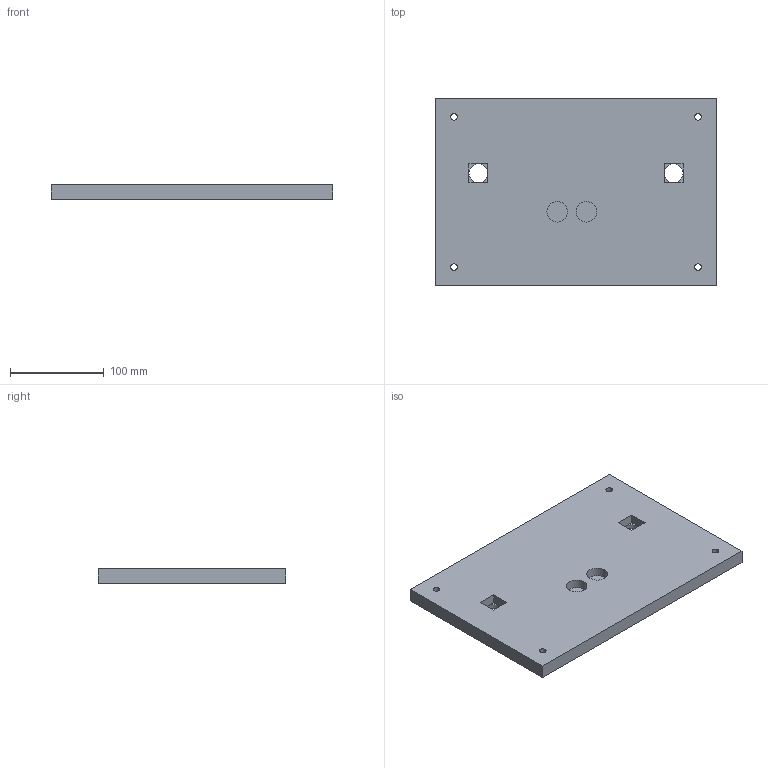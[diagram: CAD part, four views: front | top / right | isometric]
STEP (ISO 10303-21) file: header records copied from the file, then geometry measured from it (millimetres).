
FILE_DESCRIPTION(/* description */ (''),/* implementation_level */ '2;1');
FILE_NAME(/* name */ 'D:/pobrane/pwr/sem 6/konkurs kompozytywni/step/obudowa.step',/* time_stamp */ '2021-05-10T22:32:28+02:00',/* author */ (''),/* organization */ (''),/* preprocessor_version */ 'ST-DEVELOPER v18.1',/* originating_system */ 'Autodesk Translation Framework v10.6.0.1341',/* authorisation */ '');
FILE_SCHEMA (('AUTOMOTIVE_DESIGN { 1 0 10303 214 3 1 1 }'));
Length unit declared in the file: millimetre
Products named in the file (1): obudowa
Bounding box: 300 x 200 x 15 mm (x, y, z)
Volume: 878606.3 mm3; surface area: 138269.3 mm2
Topology: 1 solids, 1 shells, 36 faces, 82 edges, 50 vertices
Faces by surface type: plane 24, cylinder 8, cone 4
Full cylindrical faces by diameter (mm): 7 x4, 20 x2, 22 x2
Entity records: 1064 total; most frequent: DIRECTION 182, CARTESIAN_POINT 169, ORIENTED_EDGE 164, EDGE_CURVE 82, AXIS2_PLACEMENT_3D 63, LINE 56, VECTOR 56, EDGE_LOOP 50
